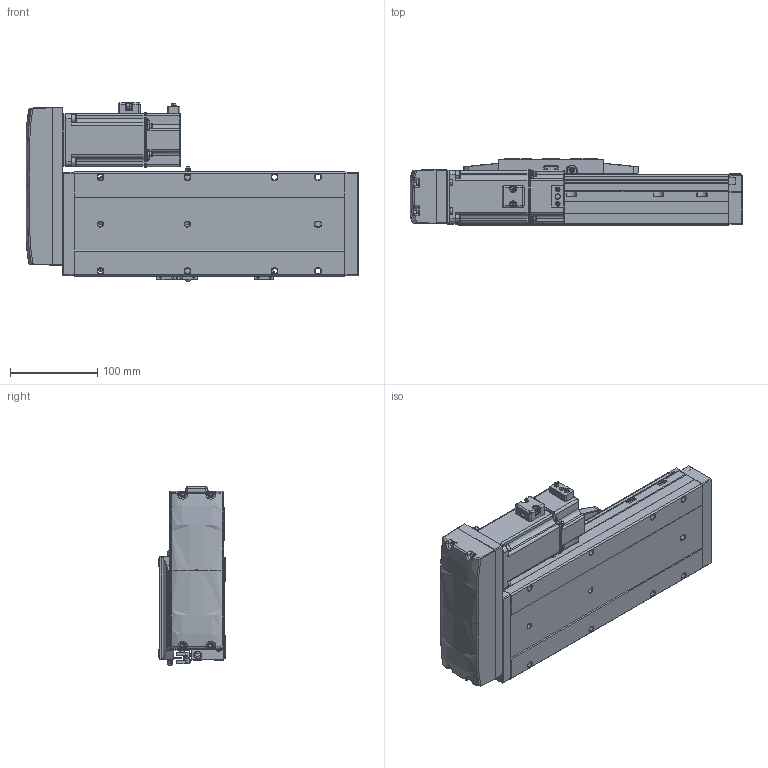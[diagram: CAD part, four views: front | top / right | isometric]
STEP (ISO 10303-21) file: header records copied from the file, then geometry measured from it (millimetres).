
FILE_DESCRIPTION (( 'STEP AP214' ), '1' );
FILE_NAME ('CTH12-L10-S100-BL-C40（简）.STEP', '2023-02-06T05:35:26', ( '' ), ( '' ), 'SwSTEP 2.0', 'SolidWorks 2018', '' );
FILE_SCHEMA (( 'AUTOMOTIVE_DESIGN' ));
Length unit declared in the file: millimetre
Products named in the file (24): 嫖萇羲壽郪磁1; 嫖萇羲壽郪磁2; CTH12賑怢ㄗ潠ㄘ; CTH12侧装连接板（标准）简; CTH12; PM-Y45; CTH12-L10-S100-BL-C40（简）; 蚐郲; CTH12_body_3; CTH12-BL_body_4; 400W萇儂; 内六角圆柱头螺钉M3-2; CTH嫖萇羲壽假蚾啣; CTH12賑怢郪磁; 内六角圆柱头螺钉M3-1; CTH12覜茼え; CTH12耜蚾裔; hex nuts, style 1-grades ab gb_GB_FASTENER_NUT_SNAB1 M3-N; M5蹟隊; CTH400W假蚾啣; CTH400W垫板（3个厚）; 内六角圆柱头螺钉M3; 湮賑怢  裔赽-1(CTH12)賑怢; CTH12底座-L311简（100行程）
Assembly tree (44 placements, depth 4):
  CTH12-L10-S100-BL-C40（简）
    CTH12底座-L311简（100行程）
    蚐郲  x2
    CTH12_body_3
    CTH12-BL_body_4
    CTH12侧装连接板（标准）简
    CTH12耜蚾裔
    CTH12賑怢郪磁
      CTH12
        湮賑怢  裔赽-1(CTH12)賑怢
        CTH12賑怢ㄗ潠ㄘ
    CTH12覜茼え
    CTH400W垫板（3个厚）
    400W萇儂
    内六角圆柱头螺钉M3  x6
    M5蹟隊  x4
    嫖萇羲壽郪磁1
      CTH嫖萇羲壽假蚾啣
      PM-Y45
      内六角圆柱头螺钉M3-2  x2
      内六角圆柱头螺钉M3-1  x2
      hex nuts, style 1-grades ab gb_GB_FASTENER_NUT_SNAB1 M3-N  x2
    嫖萇羲壽郪磁2  x2
      CTH嫖萇羲壽假蚾啣
      PM-Y45
      内六角圆柱头螺钉M3-1
      内六角圆柱头螺钉M3-2
      hex nuts, style 1-grades ab gb_GB_FASTENER_NUT_SNAB1 M3-N
    CTH400W假蚾啣
Bounding box: 381.5 x 76 x 205.26 mm (x, y, z)
Volume: 2868281.7 mm3; surface area: 460601.8 mm2
Topology: 47 solids, 48 shells, 3032 faces, 7547 edges, 4737 vertices
Faces by surface type: plane 1482, cylinder 881, cone 367, bspline 174, torus 124, sphere 4
Entity records: 99146 total; most frequent: CARTESIAN_POINT 37258, ORIENTED_EDGE 12196, DIRECTION 11480, EDGE_CURVE 6098, AXIS2_PLACEMENT_3D 4016, VERTEX_POINT 3841, VECTOR 3448, LINE 3448
